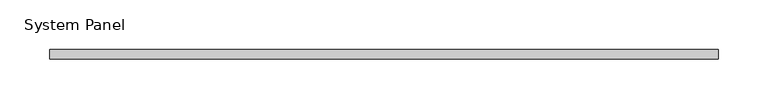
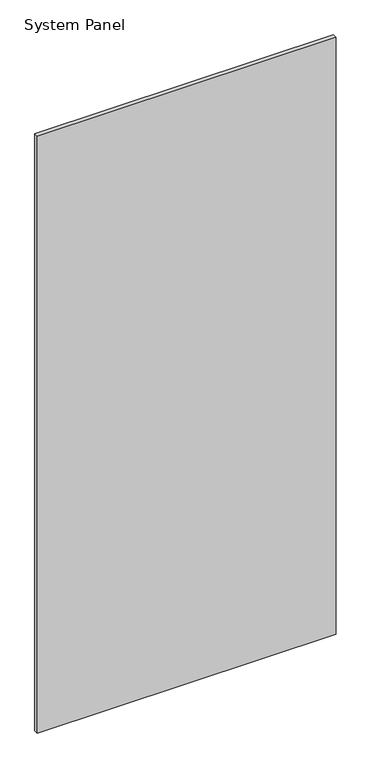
"""IFC4 building model written with IfcOpenShell, lengths in millimetres: plate geometry, System Panel : стекло_смещение_0."""

from ifc_helpers import new_model, si_unit, origin, origin_with_axes, place, context, project, spatial, polyline, outline, extrude, source, transform, mapped, element, save


def system_panel_ec9f6eb4(model_context):
    return source(origin(), model_context, "Body", "SweptSolid", [
        extrude(outline(polyline([(337.5, -5.0), (-337.5, -5.0), (-337.5, 5.0), (337.5, 5.0), (337.5, -5.0)])), origin_with_axes(), (0.0, 0.0, 1.0), 1425.0),
    ])


if __name__ == "__main__":
    model = new_model("IFC4")
    model_context = context("Model", 3, world=origin())
    ifc_project = project(units=[si_unit("LENGTHUNIT", "METRE", prefix="MILLI")], contexts=[model_context])
    site = spatial("IfcSite", under=ifc_project)
    building = spatial("IfcBuilding", under=site)
    placement = place(None, origin())
    system_panel_shape = system_panel_ec9f6eb4(model_context)
    element("IfcPlate", 1, ObjectType="System Panel : стекло_смещение_0", at=placement, inside=building, context=model_context, shape_type="MappedRepresentation", body=[
        mapped(system_panel_shape, transform((0.0, 0.0, 0.0), x_axis=(1.0, 0.0, 0.0), y_axis=(0.0, 1.0, 0.0), z_axis=(0.0, 0.0, 1.0))),
    ])
    save(model, "model.ifc")
